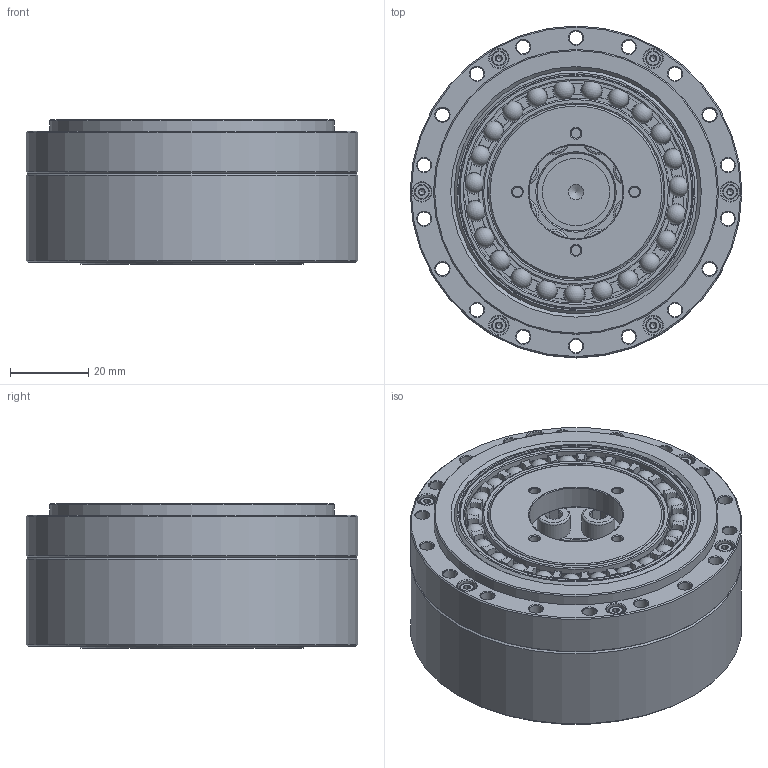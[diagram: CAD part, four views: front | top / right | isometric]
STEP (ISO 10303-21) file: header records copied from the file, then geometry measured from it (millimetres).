
FILE_DESCRIPTION(/* description */ (''),/* implementation_level */ '2;1');
FILE_NAME(/* name */ 'LSD-25-XX-U-I-φ24(无键).stp',/* time_stamp */ '2023-07-04T09:07:57+08:00',/* author */ (''),/* organization */ (''),/* preprocessor_version */ 'ST-DEVELOPER v16.7',/* originating_system */ 'SIEMENS PLM Software NX 12.0',/* authorisation */ '');
FILE_SCHEMA (('AUTOMOTIVE_DESIGN { 1 0 10303 214 3 1 1 1 }'));
Length unit declared in the file: millimetre
Products named in the file (12): EB456009-25KC-46; EB456009-25KD-01; TC-58x70x5; O-70x1.5; GB-T70.1-2000,M5x10; GB-T70.1-2000,M2x16; 发生器LSD-25-φ24无键; 柔轮LSD-25; 刚轮LSD-25; EB456009-25KD; 交叉轴承LSD-25; LSD-25-XX-U-I-φ24(无键)
Assembly tree (23 placements, depth 3):
  LSD-25-XX-U-I-φ24(无键)
    交叉轴承LSD-25
      TC-58x70x5
    刚轮LSD-25
    柔轮LSD-25
    EB456009-25KD
      EB456009-25KD-01
      EB456009-25KC-46
    发生器LSD-25-φ24无键
    GB-T70.1-2000,M2x16  x6
    GB-T70.1-2000,M5x10  x8
    O-70x1.5
Bounding box: 85 x 85 x 37.1 mm (x, y, z)
Volume: 145007.4 mm3; surface area: 85772.1 mm2
Topology: 47 solids, 47 shells, 921 faces, 2067 edges, 1235 vertices
Faces by surface type: plane 303, cone 297, cylinder 199, torus 98, sphere 23, revolution 1
Full cylindrical faces by diameter (mm): 1.6 x6, 1.886 x6, 2.5 x10, 3.5 x36, 3.8 x6, 4.2 x8, 4.8 x6, 4.826 x8, 5.5 x8, 6.8 x8, 8.5 x8, 17.2 x1, 20 x2, 20.7 x1, 24 x2, 24.7 x1, 39 x1, 44 x1, 45 x2, 47.5 x1, 47.92 x2, 50 x1, 53 x1, 55.4 x1, 55.943 x1, 57.17 x2, 57.3 x1, 58 x2, 60 x2, 60.82 x1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
Entity records: 16660 total; most frequent: CARTESIAN_POINT 3885, DIRECTION 2773, ORIENTED_EDGE 1866, AXIS2_PLACEMENT_3D 1322, EDGE_LOOP 1074, FACE_BOUND 948, EDGE_CURVE 933, VERTEX_POINT 809
